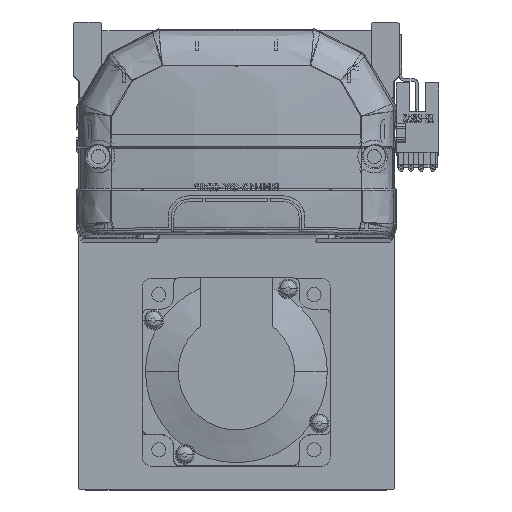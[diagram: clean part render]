
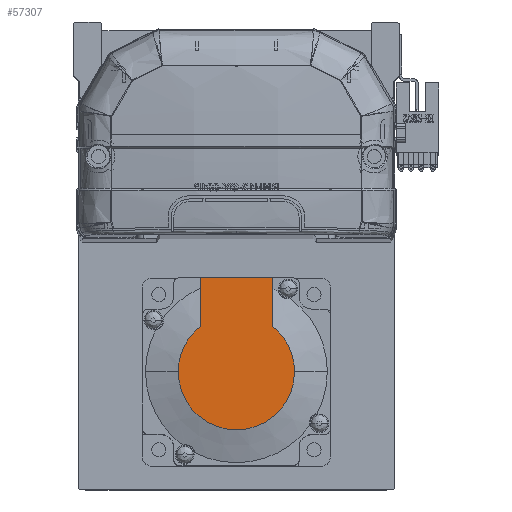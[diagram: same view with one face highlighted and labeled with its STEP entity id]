
A CAD part, top view. The second image highlights one B-rep face of the part: STEP entity #57307.
In plain terms, the highlighted planar face has unit normal (0, 0, 1) as drawn and (-1, 0, 0) by its records, which use the part's own axes.
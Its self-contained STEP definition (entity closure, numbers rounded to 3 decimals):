
#2377 = EDGE_CURVE ( 'NONE', #53907, #11040, #30763, .T. ) ;
#3723 = EDGE_CURVE ( 'NONE', #36019, #43567, #45166, .T. ) ;
#3817 = DIRECTION ( 'NONE',  ( -1., 0., 0. ) ) ;
#6080 = CARTESIAN_POINT ( 'NONE',  ( -79., 0., 0. ) ) ;
#6461 = ORIENTED_EDGE ( 'NONE', *, *, #10931, .F. ) ;
#8789 = DIRECTION ( 'NONE',  ( 0., -1., 0. ) ) ;
#8817 = CARTESIAN_POINT ( 'NONE',  ( -79., 30., 11.45 ) ) ;
#9022 = EDGE_CURVE ( 'NONE', #29141, #53727, #29504, .T. ) ;
#9753 = CIRCLE ( 'NONE', #10431, 18.538 ) ;
#10431 = AXIS2_PLACEMENT_3D ( 'NONE', #22725, #40815, #59549 ) ;
#10931 = EDGE_CURVE ( 'NONE', #36019, #53907, #14674, .T. ) ;
#11040 = VERTEX_POINT ( 'NONE', #45339 ) ;
#11593 = ORIENTED_EDGE ( 'NONE', *, *, #3723, .T. ) ;
#12453 = DIRECTION ( 'NONE',  ( 0., 0., -1. ) ) ;
#14674 = LINE ( 'NONE', #21747, #45256 ) ;
#15351 = FACE_OUTER_BOUND ( 'NONE', #29547, .T. ) ;
#16472 = AXIS2_PLACEMENT_3D ( 'NONE', #59660, #3817, #12453 ) ;
#17063 = DIRECTION ( 'NONE',  ( 0., 0., 1. ) ) ;
#19569 = DIRECTION ( 'NONE',  ( 0., 0., -1. ) ) ;
#19724 = CARTESIAN_POINT ( 'NONE',  ( -79., -9.269, 0. ) ) ;
#21747 = CARTESIAN_POINT ( 'NONE',  ( -79., 30., 27. ) ) ;
#21954 = ORIENTED_EDGE ( 'NONE', *, *, #9022, .T. ) ;
#22387 = CARTESIAN_POINT ( 'NONE',  ( -79., 0., -18.538 ) ) ;
#22725 = CARTESIAN_POINT ( 'NONE',  ( -79., 0., 0. ) ) ;
#23256 = CARTESIAN_POINT ( 'NONE',  ( -79., 30., -11.45 ) ) ;
#24844 = PLANE ( 'NONE',  #58923 ) ;
#29141 = VERTEX_POINT ( 'NONE', #22387 ) ;
#29504 = CIRCLE ( 'NONE', #16472, 18.538 ) ;
#29547 = EDGE_LOOP ( 'NONE', ( #11593, #49369, #21954, #29600, #53277, #6461 ) ) ;
#29600 = ORIENTED_EDGE ( 'NONE', *, *, #40058, .T. ) ;
#30763 = LINE ( 'NONE', #43508, #52589 ) ;
#35076 = AXIS2_PLACEMENT_3D ( 'NONE', #6080, #48224, #19569 ) ;
#36019 = VERTEX_POINT ( 'NONE', #23256 ) ;
#38429 = CARTESIAN_POINT ( 'NONE',  ( -79., 0., 18.538 ) ) ;
#40058 = EDGE_CURVE ( 'NONE', #53727, #11040, #42170, .T. ) ;
#40815 = DIRECTION ( 'NONE',  ( -1., 0., 0. ) ) ;
#41777 = CARTESIAN_POINT ( 'NONE',  ( -79., -9.269, -11.45 ) ) ;
#42170 = CIRCLE ( 'NONE', #35076, 18.538 ) ;
#43508 = CARTESIAN_POINT ( 'NONE',  ( -79., 0., 11.45 ) ) ;
#43567 = VERTEX_POINT ( 'NONE', #45312 ) ;
#45166 = LINE ( 'NONE', #41777, #48078 ) ;
#45256 = VECTOR ( 'NONE', #17063, 1000. ) ;
#45312 = CARTESIAN_POINT ( 'NONE',  ( -79., 14.579, -11.45 ) ) ;
#45339 = CARTESIAN_POINT ( 'NONE',  ( -79., 14.579, 11.45 ) ) ;
#47406 = DIRECTION ( 'NONE',  ( -1., 0., 0. ) ) ;
#48078 = VECTOR ( 'NONE', #8789, 1000. ) ;
#48224 = DIRECTION ( 'NONE',  ( -1., 0., 0. ) ) ;
#49369 = ORIENTED_EDGE ( 'NONE', *, *, #53956, .T. ) ;
#52589 = VECTOR ( 'NONE', #52877, 1000. ) ;
#52877 = DIRECTION ( 'NONE',  ( 0., -1., 0. ) ) ;
#53277 = ORIENTED_EDGE ( 'NONE', *, *, #2377, .F. ) ;
#53727 = VERTEX_POINT ( 'NONE', #38429 ) ;
#53907 = VERTEX_POINT ( 'NONE', #8817 ) ;
#53956 = EDGE_CURVE ( 'NONE', #43567, #29141, #9753, .T. ) ;
#56777 = DIRECTION ( 'NONE',  ( 0., 0., 1. ) ) ;
#57307 = ADVANCED_FACE ( 'NONE', ( #15351 ), #24844, .T. ) ;
#58923 = AXIS2_PLACEMENT_3D ( 'NONE', #19724, #47406, #56777 ) ;
#59549 = DIRECTION ( 'NONE',  ( 0., 0., -1. ) ) ;
#59660 = CARTESIAN_POINT ( 'NONE',  ( -79., 0., 0. ) ) ;
